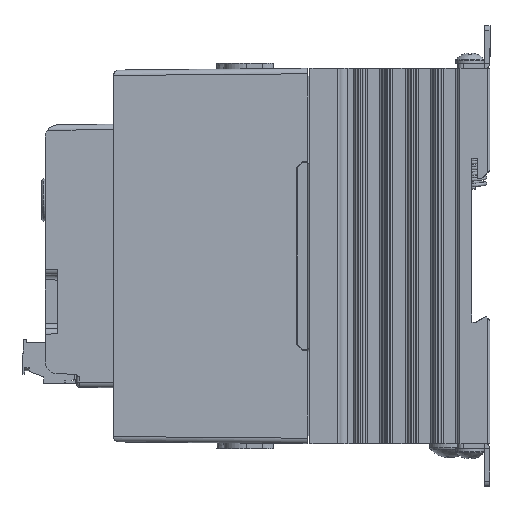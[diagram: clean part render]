
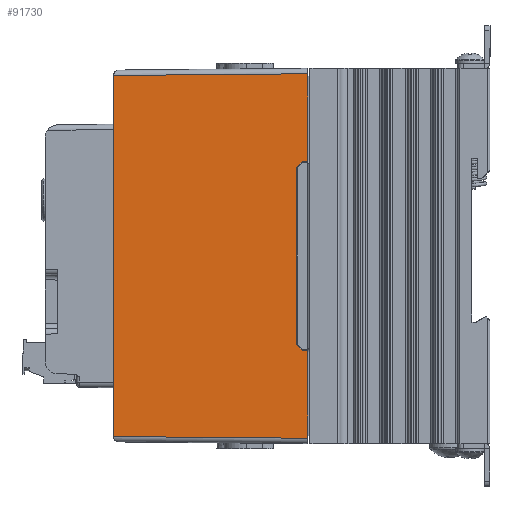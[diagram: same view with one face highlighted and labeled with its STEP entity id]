
A CAD part, left-side view. The second image highlights one B-rep face of the part: STEP entity #91730.
In plain terms, the highlighted planar face has unit normal (-1, 0.009, 0) as drawn and (1, 0, 0.009) by its records, which use the part's own axes.
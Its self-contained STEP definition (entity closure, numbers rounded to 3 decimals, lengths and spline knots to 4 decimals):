
#9293=FACE_OUTER_BOUND('',#14419,.T.);
#14419=EDGE_LOOP('',(#80632,#80633,#80634,#80635,#80636,#80637,#80638,#80639,
#80640,#80641));
#23828=LINE('',#162106,#33974);
#23958=LINE('',#162891,#34104);
#23964=LINE('',#162903,#34110);
#23968=LINE('',#162909,#34114);
#23970=LINE('',#162913,#34116);
#23972=LINE('',#162917,#34118);
#23973=LINE('',#162920,#34119);
#24318=LINE('',#163678,#34464);
#24320=LINE('',#163684,#34466);
#24321=LINE('',#163685,#34467);
#33974=VECTOR('',#120546,0.3937);
#34104=VECTOR('',#120922,0.3937);
#34110=VECTOR('',#120932,0.3937);
#34114=VECTOR('',#120940,0.3937);
#34116=VECTOR('',#120944,0.3937);
#34118=VECTOR('',#120948,0.3937);
#34119=VECTOR('',#120951,0.3937);
#34464=VECTOR('',#121676,0.3937);
#34466=VECTOR('',#121684,0.3937);
#34467=VECTOR('',#121685,0.3937);
#42706=VERTEX_POINT('',#162103);
#42707=VERTEX_POINT('',#162105);
#42810=VERTEX_POINT('',#162888);
#42811=VERTEX_POINT('',#162890);
#42814=VERTEX_POINT('',#162900);
#42815=VERTEX_POINT('',#162902);
#42816=VERTEX_POINT('',#162911);
#42817=VERTEX_POINT('',#162915);
#42818=VERTEX_POINT('',#162919);
#43018=VERTEX_POINT('',#163683);
#55191=EDGE_CURVE('',#42707,#42706,#23828,.T.);
#55379=EDGE_CURVE('',#42811,#42810,#23958,.T.);
#55385=EDGE_CURVE('',#42815,#42814,#23964,.T.);
#55389=EDGE_CURVE('',#42810,#42815,#23968,.T.);
#55391=EDGE_CURVE('',#42814,#42816,#23970,.T.);
#55393=EDGE_CURVE('',#42816,#42817,#23972,.T.);
#55394=EDGE_CURVE('',#42818,#42811,#23973,.T.);
#55760=EDGE_CURVE('',#42818,#42706,#24318,.T.);
#55763=EDGE_CURVE('',#42817,#43018,#24320,.T.);
#55764=EDGE_CURVE('',#42707,#43018,#24321,.T.);
#80632=ORIENTED_EDGE('',*,*,#55393,.T.);
#80633=ORIENTED_EDGE('',*,*,#55763,.T.);
#80634=ORIENTED_EDGE('',*,*,#55764,.F.);
#80635=ORIENTED_EDGE('',*,*,#55191,.T.);
#80636=ORIENTED_EDGE('',*,*,#55760,.F.);
#80637=ORIENTED_EDGE('',*,*,#55394,.T.);
#80638=ORIENTED_EDGE('',*,*,#55379,.T.);
#80639=ORIENTED_EDGE('',*,*,#55389,.T.);
#80640=ORIENTED_EDGE('',*,*,#55385,.T.);
#80641=ORIENTED_EDGE('',*,*,#55391,.T.);
#87156=PLANE('',#98951);
#91730=ADVANCED_FACE('',(#9293),#87156,.T.);
#98951=AXIS2_PLACEMENT_3D('',#163682,#121682,#121683);
#120546=DIRECTION('',(0.,-1.,0.));
#120922=DIRECTION('',(-0.009,0.009,1.));
#120932=DIRECTION('',(0.,1.,0.));
#120940=DIRECTION('',(-0.006,0.71,0.704));
#120944=DIRECTION('',(0.006,0.71,-0.704));
#120948=DIRECTION('',(0.009,0.009,-1.));
#120951=DIRECTION('',(0.,1.,0.));
#121676=DIRECTION('',(-0.009,0.009,1.));
#121682=DIRECTION('center_axis',(1.,0.,
0.009));
#121683=DIRECTION('ref_axis',(0.,1.,0.));
#121684=DIRECTION('',(0.,1.,0.));
#121685=DIRECTION('',(0.009,0.009,-1.));
#162103=CARTESIAN_POINT('',(1.3842,0.0658,1.811));
#162105=CARTESIAN_POINT('',(1.3842,3.4342,1.811));
#162106=CARTESIAN_POINT('',(1.3842,0.,1.811));
#162888=CARTESIAN_POINT('',(1.3995,0.8705,0.0521));
#162890=CARTESIAN_POINT('',(1.4,0.87,0.));
#162891=CARTESIAN_POINT('',(1.3996,0.8704,0.0436));
#162900=CARTESIAN_POINT('',(1.3991,2.5762,0.105));
#162902=CARTESIAN_POINT('',(1.3991,0.9238,0.105));
#162903=CARTESIAN_POINT('',(1.3991,3.0381,0.105));
#162909=CARTESIAN_POINT('',(1.3937,1.5503,0.726));
#162911=CARTESIAN_POINT('',(1.3995,2.6295,0.0521));
#162913=CARTESIAN_POINT('',(1.4015,2.859,-0.1754));
#162915=CARTESIAN_POINT('',(1.4,2.63,0.));
#162917=CARTESIAN_POINT('',(1.4,2.63,0.0023));
#162919=CARTESIAN_POINT('',(1.4,0.05,0.));
#162920=CARTESIAN_POINT('',(1.4,0.,0.));
#163678=CARTESIAN_POINT('',(1.3999,0.0501,0.0148));
#163682=CARTESIAN_POINT('Origin',(1.4,3.5,0.));
#163683=CARTESIAN_POINT('',(1.4,3.45,0.));
#163684=CARTESIAN_POINT('',(1.4,0.,0.));
#163685=CARTESIAN_POINT('',(1.4,3.45,0.0057));
